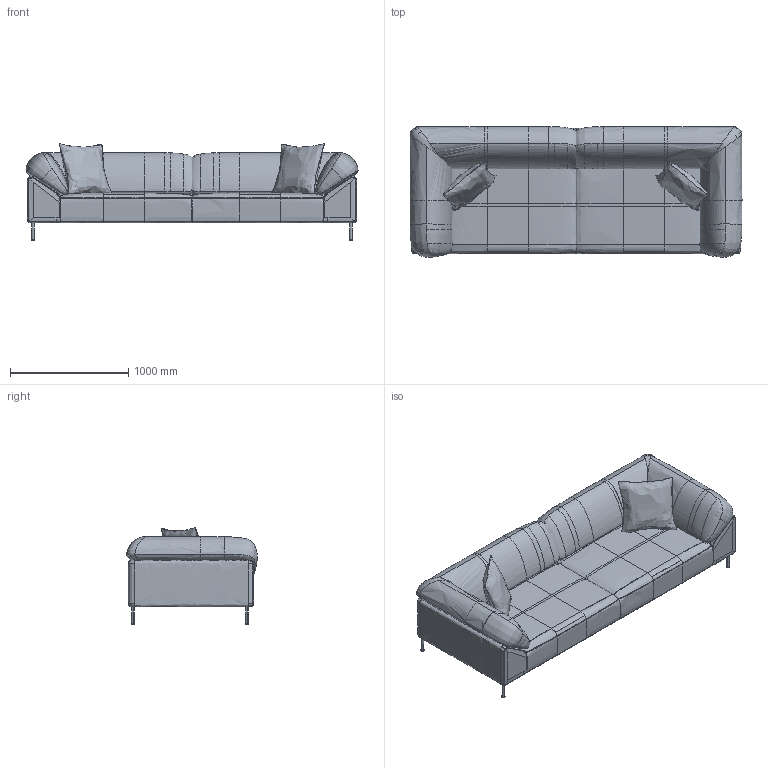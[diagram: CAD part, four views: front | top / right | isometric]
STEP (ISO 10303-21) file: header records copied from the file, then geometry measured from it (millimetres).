
FILE_DESCRIPTION(/* description */ (''),/* implementation_level */ '2;1');
FILE_NAME(/* name */ 'Collar 3-seater',/* time_stamp */ '2020-06-11T10:57:50+02:00',/* author */ (''),/* organization */ (''),/* preprocessor_version */ 'ST-DEVELOPER v15',/* originating_system */ '',/* authorisation */ '');
FILE_SCHEMA (('AUTOMOTIVE_DESIGN'));
Length unit declared in the file: millimetre
Products named in the file (1): Document
Bounding box: 2809.09 x 1104.9 x 818.59 mm (x, y, z)
Volume: 242589.7 mm3; surface area: 12540062.7 mm2
Topology: 12 solids, 40 shells, 328 faces, 812 edges, 480 vertices
Faces by surface type: bspline 328
Entity records: 92026 total; most frequent: CARTESIAN_POINT 82246, B_SPLINE_CURVE_WITH_KNOTS 1866, ORIENTED_EDGE 1382, PCURVE 1382, DEFINITIONAL_REPRESENTATION 1382, SURFACE_CURVE 794, EDGE_CURVE 794, VERTEX_POINT 472
